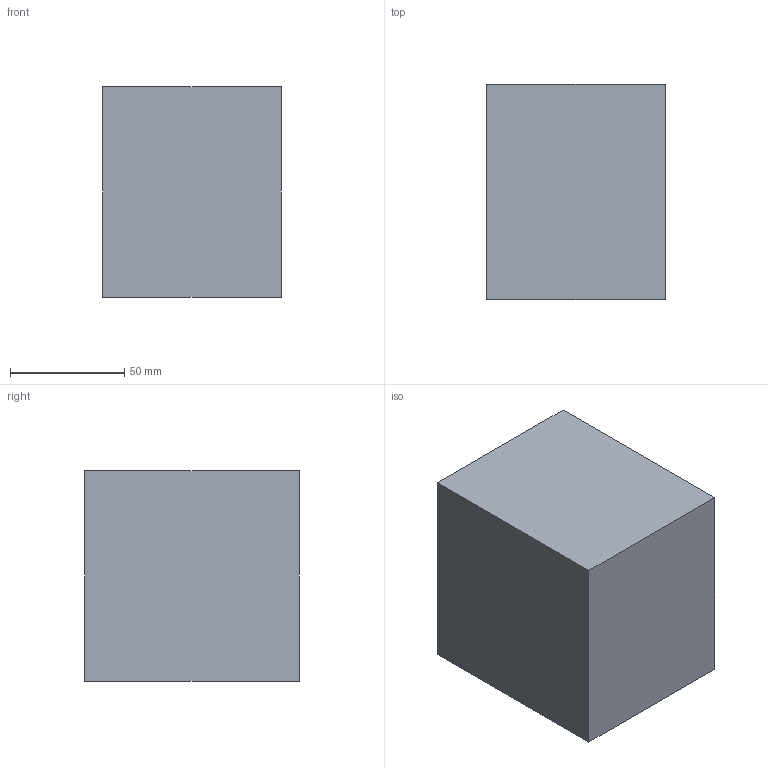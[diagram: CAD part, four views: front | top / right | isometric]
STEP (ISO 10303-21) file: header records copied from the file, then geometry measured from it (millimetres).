
FILE_DESCRIPTION(('Open CASCADE Model'),'2;1');
FILE_NAME('Open CASCADE Shape Model','2026-10-08T06:53:14',('Author'),( 'Open CASCADE'),'Open CASCADE STEP processor 7.8','Open CASCADE 7.8' ,'Unknown');
FILE_SCHEMA(('AUTOMOTIVE_DESIGN { 1 0 10303 214 1 1 1 1 }'));
Length unit declared in the file: millimetre
Products named in the file (1): Open CASCADE STEP translator 7.8 22
Bounding box: 78 x 94 x 92 mm (x, y, z)
Volume: 674544 mm3; surface area: 46312 mm2
Topology: 1 solids, 1 shells, 6 faces, 12 edges, 8 vertices
Faces by surface type: plane 6
Entity records: 322 total; most frequent: CARTESIAN_POINT 51, DIRECTION 50, LINE 36, VECTOR 36, ORIENTED_EDGE 24, PCURVE 24, DEFINITIONAL_REPRESENTATION 24, EDGE_CURVE 12
